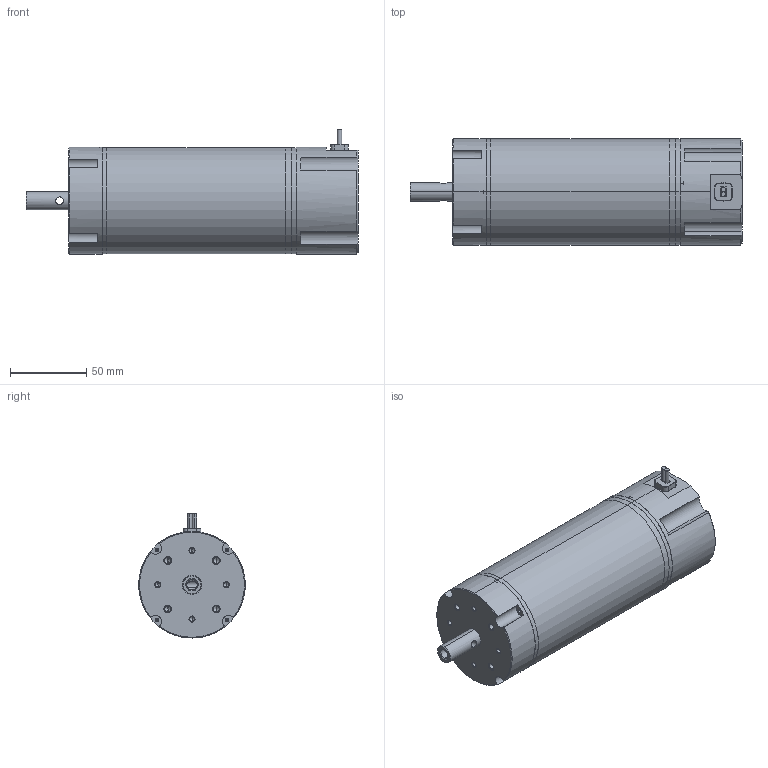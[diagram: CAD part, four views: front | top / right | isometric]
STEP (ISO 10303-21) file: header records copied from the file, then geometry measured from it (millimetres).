
FILE_DESCRIPTION (( 'STEP AP203' ), '1' );
FILE_NAME ('CTL70-010-75-2-C3-MOD2740_B STEP.STEP', '2020-02-19T19:02:35', ( '' ), ( '' ), 'SwSTEP 2.0', 'SolidWorks 2018', '' );
FILE_SCHEMA (( 'CONFIG_CONTROL_DESIGN' ));
Length unit declared in the file: millimetre
Products named in the file (10): 240824-01_B; 240825-01_A; 140258-01_A; 210125-01_B; 22978-01_A_001; 140259-01_A; 675120-00_A; 807021-05_A STEP; CTL70-010-75-2-C3-MOD2740_B STEP; 240826-01_A
Assembly tree (11 placements, depth 3):
  CTL70-010-75-2-C3-MOD2740_B STEP
    807021-05_A STEP
      140258-01_A
    210125-01_B
    140259-01_A
    240824-01_B
    240825-01_A
    22978-01_A_001
    675120-00_A  x2
    240826-01_A  x2
Bounding box: 218 x 70 x 81.5 mm (x, y, z)
Volume: 263928.7 mm3; surface area: 124296.4 mm2
Topology: 12 solids, 12 shells, 507 faces, 1256 edges, 774 vertices
Faces by surface type: cylinder 279, cone 114, plane 103, torus 8, bspline 3
Entity records: 15625 total; most frequent: CARTESIAN_POINT 3337, DIRECTION 2552, ORIENTED_EDGE 2172, EDGE_CURVE 1086, AXIS2_PLACEMENT_3D 1048, VERTEX_POINT 690, EDGE_LOOP 590, CIRCLE 575
